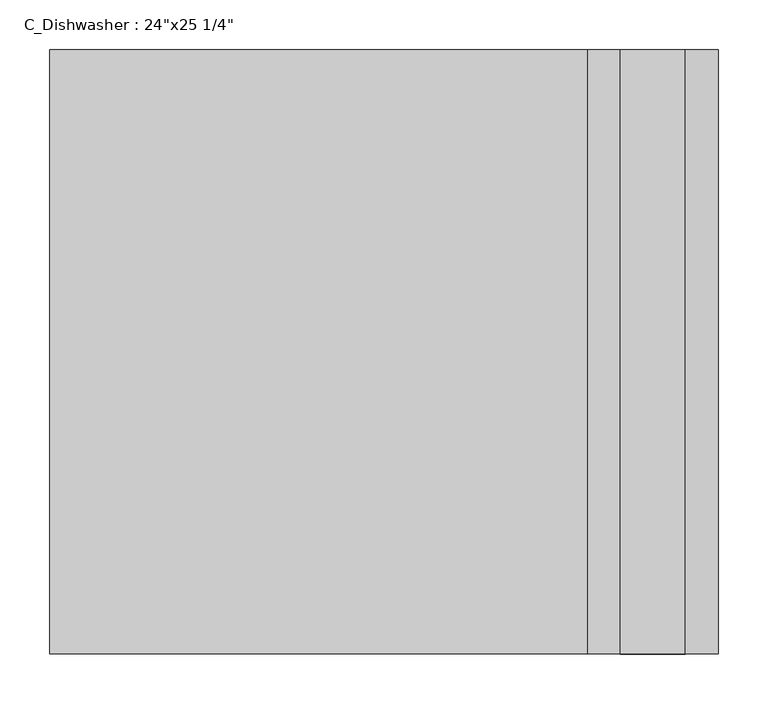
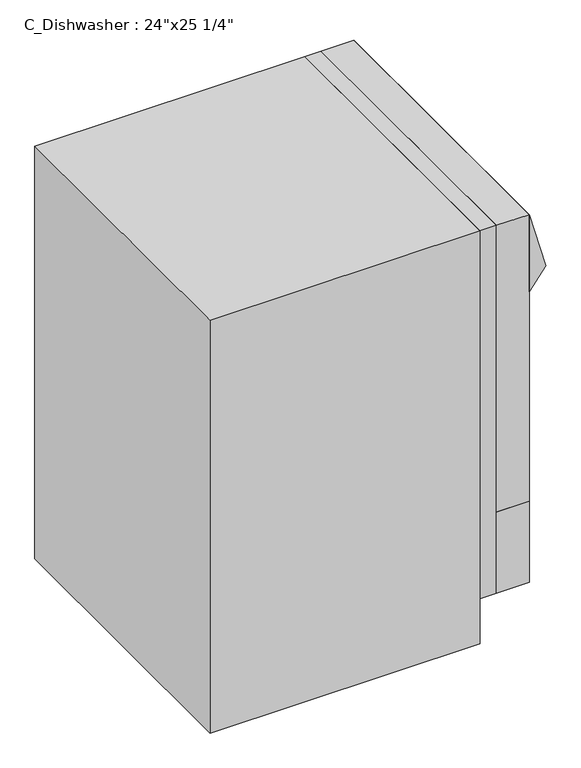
"""IFC4 building model written with IfcOpenShell, lengths in millimetres: flow terminal geometry."""

from ifc_helpers import new_model, si_unit, frame, origin, origin_with_axes, place, context, project, spatial, polyline, outline, extrude, source, transform, mapped, element, save


def flow_terminal_c128aac0(model_context):
    return source(origin(), model_context, "Body", "SweptSolid", [
        extrude(outline(polyline([(641.35, -304.8), (575.46875, -304.8), (575.46875, 304.8), (641.35, 304.8), (641.35, -304.8)])), frame((0.0, 0.0, 95.25), z_axis=(0.0, 0.0, 1.0), x_axis=(1.0, 0.0, 0.0)), (0.0, 0.0, 1.0), 172.24375),
        extrude(outline(polyline([(542.13125, 304.8), (542.13125, -304.8), (0.0, -304.8), (0.0, 304.8), (542.13125, 304.8)])), origin_with_axes(), (0.0, 0.0, 1.0), 876.3),
        extrude(outline(polyline([(755.65, 674.6875), (876.3, 641.35), (711.99375, 641.35), (755.65, 674.6875)])), frame((0.0, -304.8, 0.0), z_axis=(0.0, 1.0, 0.0), x_axis=(0.0, 0.0, 1.0)), (0.0, 0.0, 1.0), 609.6),
        extrude(outline(polyline([(641.35, -304.8), (575.46875, -304.8), (575.46875, 304.8), (641.35, 304.8), (641.35, -304.8)])), frame((0.0, 0.0, 267.49375), z_axis=(0.0, 0.0, 1.0), x_axis=(1.0, 0.0, 0.0)), (0.0, 0.0, 1.0), 608.80625),
        extrude(outline(polyline([(575.46875, -304.8), (542.13125, -304.8), (542.13125, 304.8), (575.46875, 304.8), (575.46875, -304.8)])), frame((0.0, 0.0, 95.25), z_axis=(0.0, 0.0, 1.0), x_axis=(1.0, 0.0, 0.0)), (0.0, 0.0, 1.0), 781.05),
    ])


if __name__ == "__main__":
    model = new_model("IFC4")
    model_context = context("Model", 3, world=origin())
    ifc_project = project(units=[si_unit("LENGTHUNIT", "METRE", prefix="MILLI")], contexts=[model_context])
    site = spatial("IfcSite", under=ifc_project)
    building = spatial("IfcBuilding", under=site)
    placement = place(None, origin())
    flow_terminal_shape = flow_terminal_c128aac0(model_context)
    element("IfcFlowTerminal", 1, ObjectType="C_Dishwasher : 24\"x25 1/4\"", at=placement, inside=building, context=model_context, shape_type="MappedRepresentation", body=[
        mapped(flow_terminal_shape, transform((0.0, 0.0, 0.0), x_axis=(1.0, 0.0, 0.0), y_axis=(0.0, 1.0, 0.0), z_axis=(0.0, 0.0, 1.0))),
    ])
    save(model, "model.ifc")
